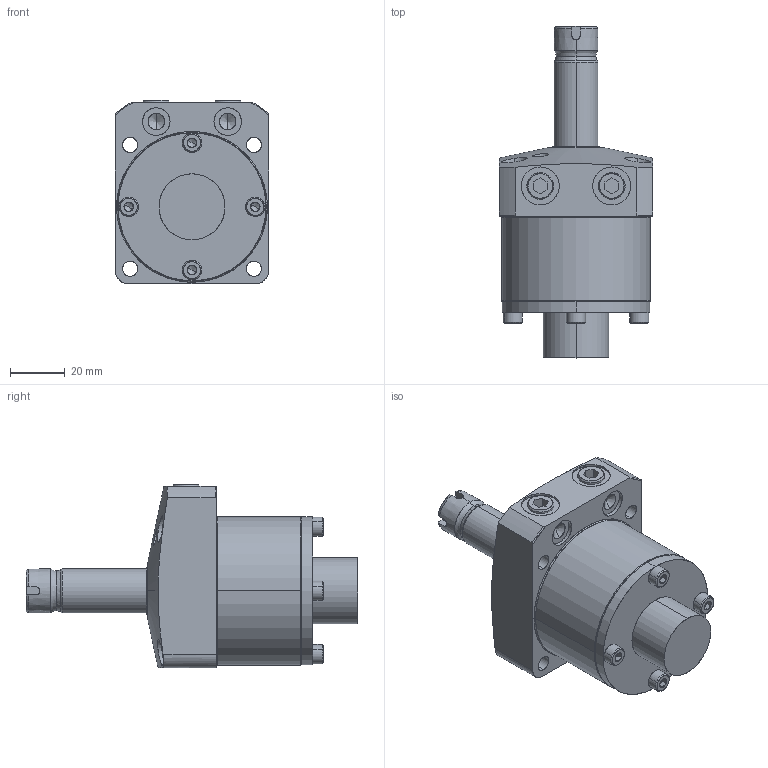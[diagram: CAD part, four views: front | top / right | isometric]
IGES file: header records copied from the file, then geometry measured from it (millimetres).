
Start section: SolidWorks IGES file using analytic representation for surfaces
Global section: file name: L:\電子カタログ-3D_IGES\WHA0400-2GR-F.igs; native system: SolidWorks 2009; preprocessor: SolidWorks 2009; author: D211; date: 100416.113028; units: millimetre
Bounding box: 56 x 120.7 x 66.8 mm (x, y, z)
Surface area: 33823.3 mm2 (no closed solid volume)
Topology: 0 solids, 0 shells, 302 faces, 4697 edges, 4683 vertices
Faces by surface type: revolution 179, bspline 123
